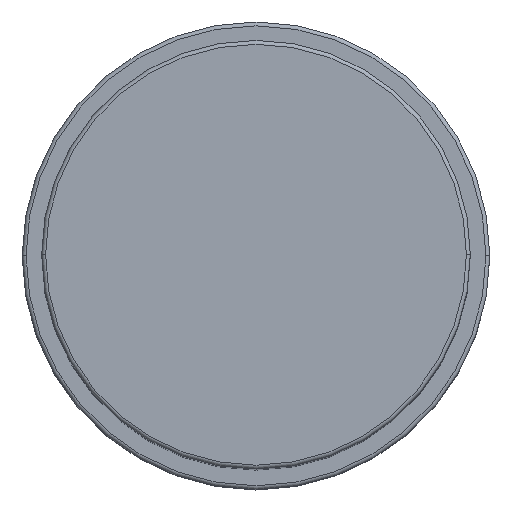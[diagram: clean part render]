
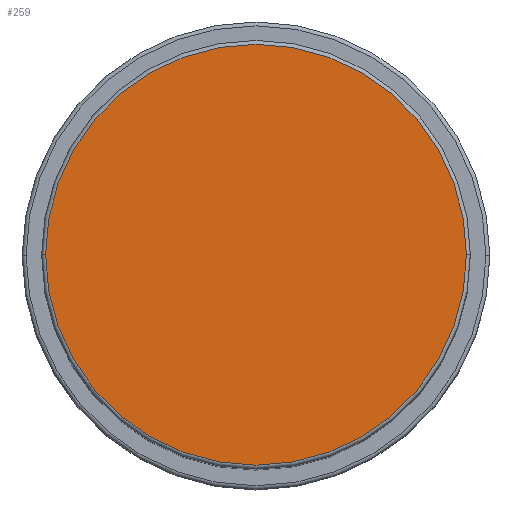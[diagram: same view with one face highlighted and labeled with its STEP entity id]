
A CAD part, top view. The second image highlights one B-rep face of the part: STEP entity #259.
In plain terms, the highlighted planar face has unit normal (0, 0, 1).
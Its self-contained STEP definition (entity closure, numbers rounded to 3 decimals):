
#21 = DIRECTION ( 'NONE',  ( 0., 0., 1. ) ) ;
#101 = AXIS2_PLACEMENT_3D ( 'NONE', #4656, #2035, #4682 ) ;
#259 = ADVANCED_FACE ( 'NONE', ( #4831 ), #2290, .T. ) ;
#411 = ORIENTED_EDGE ( 'NONE', *, *, #1903, .T. ) ;
#637 = CARTESIAN_POINT ( 'NONE',  ( -27., 0., 106. ) ) ;
#648 = AXIS2_PLACEMENT_3D ( 'NONE', #2308, #21, #4492 ) ;
#939 = CARTESIAN_POINT ( 'NONE',  ( 27., 0., 106. ) ) ;
#1027 = VERTEX_POINT ( 'NONE', #637 ) ;
#1903 = EDGE_CURVE ( 'NONE', #1027, #4930, #1911, .T. ) ;
#1911 = CIRCLE ( 'NONE', #4798, 27. ) ;
#1948 = DIRECTION ( 'NONE',  ( 1., 0., 0. ) ) ;
#2035 = DIRECTION ( 'NONE',  ( 0., 0., 1. ) ) ;
#2290 = PLANE ( 'NONE',  #648 ) ;
#2308 = CARTESIAN_POINT ( 'NONE',  ( 0., 0., 106. ) ) ;
#2691 = CARTESIAN_POINT ( 'NONE',  ( 0., 0., 106. ) ) ;
#3707 = DIRECTION ( 'NONE',  ( 0., 0., 1. ) ) ;
#4282 = EDGE_LOOP ( 'NONE', ( #4595, #411 ) ) ;
#4336 = CIRCLE ( 'NONE', #101, 27. ) ;
#4492 = DIRECTION ( 'NONE',  ( 1., 0., 0. ) ) ;
#4527 = EDGE_CURVE ( 'NONE', #4930, #1027, #4336, .T. ) ;
#4595 = ORIENTED_EDGE ( 'NONE', *, *, #4527, .T. ) ;
#4656 = CARTESIAN_POINT ( 'NONE',  ( 0., 0., 106. ) ) ;
#4682 = DIRECTION ( 'NONE',  ( 1., 0., 0. ) ) ;
#4798 = AXIS2_PLACEMENT_3D ( 'NONE', #2691, #3707, #1948 ) ;
#4831 = FACE_OUTER_BOUND ( 'NONE', #4282, .T. ) ;
#4930 = VERTEX_POINT ( 'NONE', #939 ) ;
